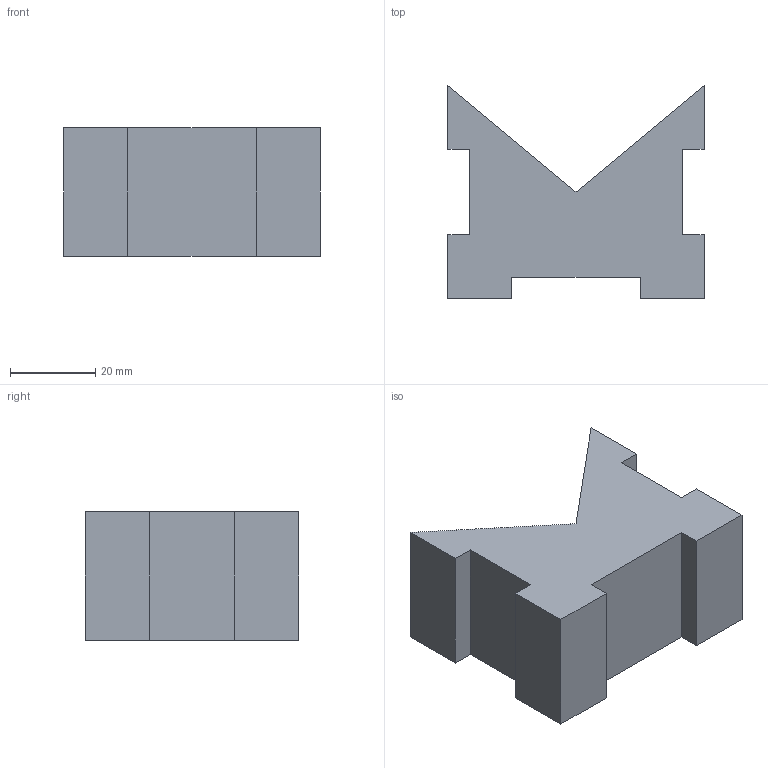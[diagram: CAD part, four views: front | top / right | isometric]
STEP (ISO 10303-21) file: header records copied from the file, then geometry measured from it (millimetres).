
FILE_DESCRIPTION(/* description */ (''),/* implementation_level */ '2;1');
FILE_NAME(/* name */ 'E:\OneDrive\Desktop\N5_GC_Orthographic\3D CAD Models\Task_5.stp',/* time_stamp */ '2020-06-09T12:48:21+01:00',/* author */ ('hunte'),/* organization */ (''),/* preprocessor_version */ 'ST-DEVELOPER v18.1',/* originating_system */ 'Autodesk Inventor 2020',/* authorisation */ '');
FILE_SCHEMA (('AUTOMOTIVE_DESIGN { 1 0 10303 214 3 1 1 }'));
Length unit declared in the file: millimetre
Products named in the file (1): Task_5
Bounding box: 60 x 50 x 30 mm (x, y, z)
Volume: 57000 mm3; surface area: 11843.1 mm2
Topology: 1 solids, 1 shells, 19 faces, 51 edges, 34 vertices
Faces by surface type: plane 19
Entity records: 626 total; most frequent: CARTESIAN_POINT 105, ORIENTED_EDGE 102, DIRECTION 91, LINE 51, VECTOR 51, EDGE_CURVE 51, VERTEX_POINT 34, AXIS2_PLACEMENT_3D 20
